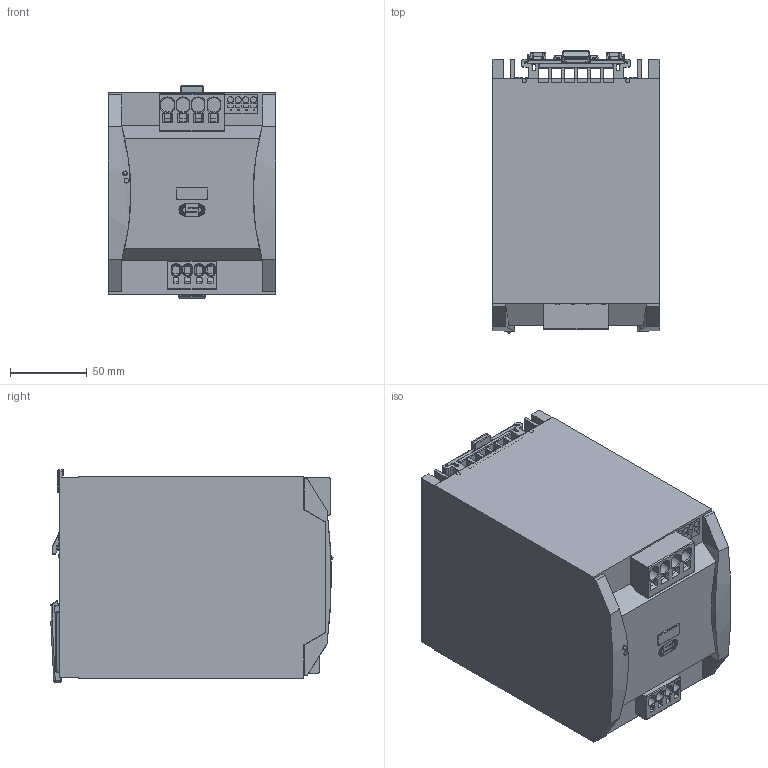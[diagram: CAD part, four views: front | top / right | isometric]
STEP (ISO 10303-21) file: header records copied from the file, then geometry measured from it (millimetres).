
FILE_DESCRIPTION(/* description */ (''),/* implementation_level */ '2;1');
FILE_NAME(/* name */ 'O:\Projekte_G\1529G0X\Grafiken\CAD\1529G04-0001.stp',/* time_stamp */ '2016-09-07T09:21:11+02:00',/* author */ ('aj'),/* organization */ (''),/* preprocessor_version */ 'ST-DEVELOPER v15.6',/* originating_system */ 'Autodesk Inventor 2015',/* authorisation */ '');
FILE_SCHEMA (('CONFIG_CONTROL_DESIGN'));
Length unit declared in the file: millimetre
Products named in the file (1): 1529G04-0001
Bounding box: 108.5 x 183.48 x 138 mm (x, y, z)
Volume: 2322695.9 mm3; surface area: 175620 mm2
Topology: 3 solids, 3 shells, 1396 faces, 3550 edges, 2166 vertices
Faces by surface type: plane 629, cylinder 556, bspline 128, sphere 67, cone 16
Full cylindrical faces by diameter (mm): 0.457 x2, 2.5 x1, 3 x2, 4 x4
Entity records: 47700 total; most frequent: CARTESIAN_POINT 12391, DIRECTION 7192, ORIENTED_EDGE 7028, EDGE_CURVE 3514, AXIS2_PLACEMENT_3D 2537, VERTEX_POINT 2164, LINE 2118, VECTOR 2118
